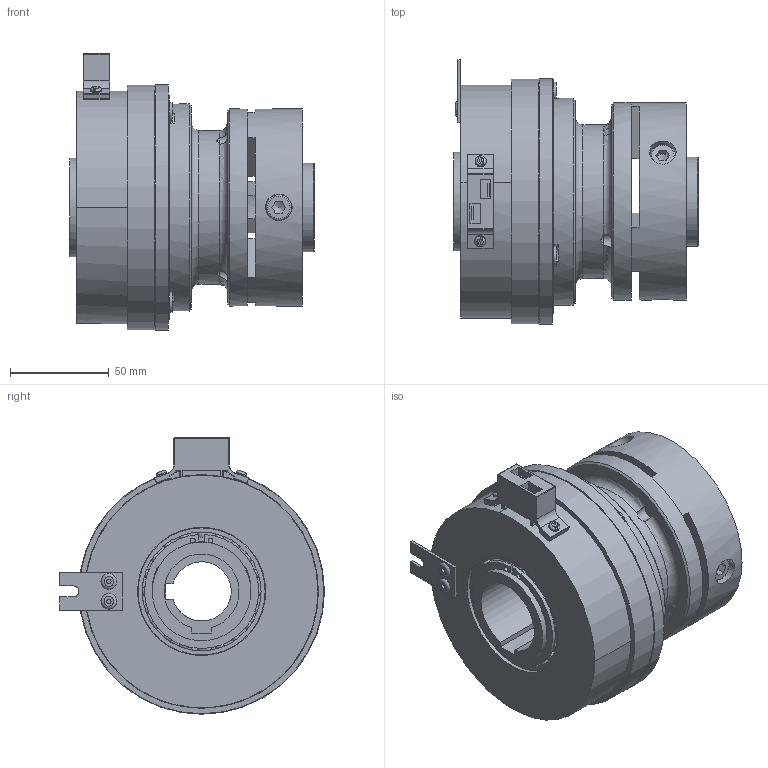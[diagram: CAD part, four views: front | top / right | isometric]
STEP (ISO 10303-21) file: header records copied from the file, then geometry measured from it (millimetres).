
FILE_DESCRIPTION(/* description */ (''),/* implementation_level */ '2;1');
FILE_NAME(/* name */ 'X:\INVENTOR\DISEGNI\08_Freni_Friz_Elettmag_Monodisco\08_26 EMSL_DF\EMSL_DF STEP\08_26_120_51 EMSL120_DF-GE_S@STEP.stp',/* time_stamp */ '2018-04-24T10:11:38+02:00',/* author */ ('stefano'),/* organization */ (''),/* preprocessor_version */ 'ST-DEVELOPER v17',/* originating_system */ 'Autodesk Inventor 2018',/* authorisation */ '');
FILE_SCHEMA (('AUTOMOTIVE_DESIGN { 1 0 10303 214 3 1 1 }'));
Length unit declared in the file: millimetre
Products named in the file (1): 08_26_120_51 EMSL120_DF-GE - Spina_Substitute_1
Bounding box: 124 x 134.25 x 140.13 mm (x, y, z)
Volume: 750466.2 mm3; surface area: 187400.4 mm2
Topology: 2 solids, 2 shells, 696 faces, 2069 edges, 1345 vertices
Faces by surface type: cylinder 274, plane 256, torus 87, sphere 44, cone 35
Full cylindrical faces by diameter (mm): 2.2 x5, 2.5 x2, 3 x4, 5.6 x2, 6 x3, 6.1 x3, 6.647 x6, 7.5 x3, 10 x3, 10.5 x3, 13 x6, 13.5 x6, 45 x2, 47 x2, 50 x5, 54.8 x2, 56 x2, 60.2 x2, 64.5 x1, 65 x5, 68 x1, 77 x1, 78 x1, 81 x1, 100 x2, 105 x1, 110.5 x1, 118.5 x1, 124 x1, 124.5 x1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
Entity records: 26424 total; most frequent: CARTESIAN_POINT 6811, DIRECTION 4193, ORIENTED_EDGE 3996, EDGE_CURVE 1998, AXIS2_PLACEMENT_3D 1768, VERTEX_POINT 1345, CIRCLE 1071, EDGE_LOOP 870
